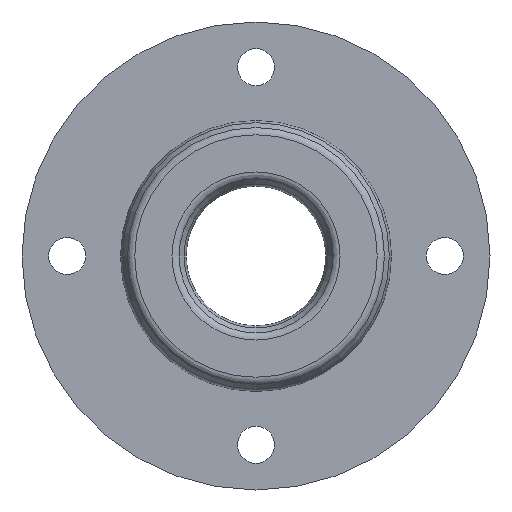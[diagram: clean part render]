
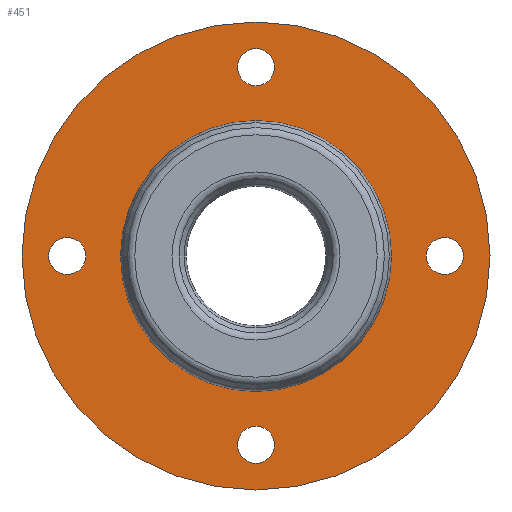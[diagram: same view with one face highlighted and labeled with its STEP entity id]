
A CAD part, left-side view. The second image highlights one B-rep face of the part: STEP entity #451.
In plain terms, the highlighted planar face has unit normal (-1, 0, 0).
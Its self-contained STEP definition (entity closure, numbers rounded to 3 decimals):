
#75=FACE_BOUND('',#137,.T.);
#76=FACE_BOUND('',#138,.T.);
#77=FACE_BOUND('',#139,.T.);
#78=FACE_BOUND('',#140,.T.);
#79=FACE_BOUND('',#141,.T.);
#99=FACE_OUTER_BOUND('',#136,.T.);
#136=EDGE_LOOP('',(#373));
#137=EDGE_LOOP('',(#374));
#138=EDGE_LOOP('',(#375));
#139=EDGE_LOOP('',(#376));
#140=EDGE_LOOP('',(#377));
#141=EDGE_LOOP('',(#378));
#155=CIRCLE('',#490,2.25);
#159=CIRCLE('',#497,2.25);
#163=CIRCLE('',#504,2.25);
#167=CIRCLE('',#511,2.25);
#179=CIRCLE('',#529,28.5);
#180=CIRCLE('',#531,16.5);
#202=VERTEX_POINT('',#737);
#206=VERTEX_POINT('',#750);
#210=VERTEX_POINT('',#763);
#214=VERTEX_POINT('',#776);
#224=VERTEX_POINT('',#807);
#225=VERTEX_POINT('',#811);
#245=EDGE_CURVE('',#202,#202,#155,.T.);
#251=EDGE_CURVE('',#206,#206,#159,.T.);
#257=EDGE_CURVE('',#210,#210,#163,.T.);
#263=EDGE_CURVE('',#214,#214,#167,.T.);
#277=EDGE_CURVE('',#224,#224,#179,.T.);
#279=EDGE_CURVE('',#225,#225,#180,.T.);
#373=ORIENTED_EDGE('',*,*,#277,.T.);
#374=ORIENTED_EDGE('',*,*,#245,.T.);
#375=ORIENTED_EDGE('',*,*,#251,.T.);
#376=ORIENTED_EDGE('',*,*,#257,.T.);
#377=ORIENTED_EDGE('',*,*,#263,.T.);
#378=ORIENTED_EDGE('',*,*,#279,.F.);
#431=PLANE('',#530);
#451=ADVANCED_FACE('',(#99,#75,#76,#77,#78,#79),#431,.T.);
#490=AXIS2_PLACEMENT_3D('',#739,#575,#576);
#497=AXIS2_PLACEMENT_3D('',#752,#591,#592);
#504=AXIS2_PLACEMENT_3D('',#765,#607,#608);
#511=AXIS2_PLACEMENT_3D('',#778,#623,#624);
#529=AXIS2_PLACEMENT_3D('',#808,#661,#662);
#530=AXIS2_PLACEMENT_3D('',#810,#664,#665);
#531=AXIS2_PLACEMENT_3D('',#812,#666,#667);
#575=DIRECTION('center_axis',(1.,0.,0.));
#576=DIRECTION('ref_axis',(0.,1.,0.));
#591=DIRECTION('center_axis',(1.,0.,0.));
#592=DIRECTION('ref_axis',(0.,0.,1.));
#607=DIRECTION('center_axis',(1.,0.,0.));
#608=DIRECTION('ref_axis',(0.,-1.,0.));
#623=DIRECTION('center_axis',(1.,0.,0.));
#624=DIRECTION('ref_axis',(0.,0.,-1.));
#661=DIRECTION('center_axis',(-1.,0.,0.));
#662=DIRECTION('ref_axis',(0.,0.,1.));
#664=DIRECTION('center_axis',(-1.,0.,0.));
#665=DIRECTION('ref_axis',(0.,0.,1.));
#666=DIRECTION('center_axis',(-1.,0.,0.));
#667=DIRECTION('ref_axis',(0.,0.,1.));
#737=CARTESIAN_POINT('',(-8.,-2.25,23.));
#739=CARTESIAN_POINT('Origin',(-8.,0.,23.));
#750=CARTESIAN_POINT('',(-8.,-23.,-2.25));
#752=CARTESIAN_POINT('Origin',(-8.,-23.,0.));
#763=CARTESIAN_POINT('',(-8.,2.25,-23.));
#765=CARTESIAN_POINT('Origin',(-8.,0.,-23.));
#776=CARTESIAN_POINT('',(-8.,23.,2.25));
#778=CARTESIAN_POINT('Origin',(-8.,23.,0.));
#807=CARTESIAN_POINT('',(-8.,-28.5,0.));
#808=CARTESIAN_POINT('Origin',(-8.,0.,0.));
#810=CARTESIAN_POINT('Origin',(-8.,16.5,0.));
#811=CARTESIAN_POINT('',(-8.,-16.5,0.));
#812=CARTESIAN_POINT('Origin',(-8.,0.,0.));
